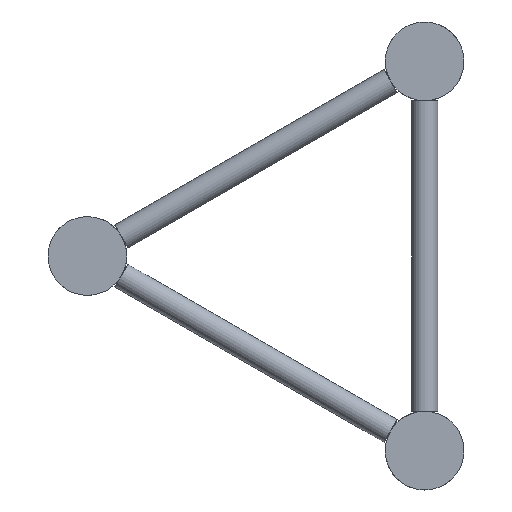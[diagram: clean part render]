
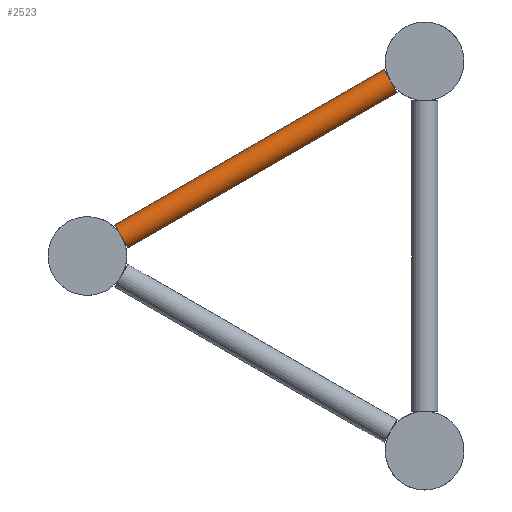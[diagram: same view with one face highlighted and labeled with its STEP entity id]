
A CAD part, left-side view. The second image highlights one B-rep face of the part: STEP entity #2523.
In plain terms, the highlighted cylindrical face has radius 8 mm (diameter 16 mm), a full revolution.
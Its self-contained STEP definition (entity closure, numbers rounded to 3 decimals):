
#72=CIRCLE('',#2895,8.);
#88=CIRCLE('',#2926,8.);
#89=CIRCLE('',#2928,8.);
#90=CIRCLE('',#2930,8.);
#237=FACE_BOUND('',#817,.T.);
#336=CYLINDRICAL_SURFACE('',#2929,8.);
#512=FACE_OUTER_BOUND('',#816,.T.);
#816=EDGE_LOOP('',(#1717,#1718));
#817=EDGE_LOOP('',(#1719,#1720));
#1181=VERTEX_POINT('',#4225);
#1182=VERTEX_POINT('',#4226);
#1207=VERTEX_POINT('',#4286);
#1208=VERTEX_POINT('',#4287);
#1376=EDGE_CURVE('',#1182,#1181,#72,.T.);
#1400=EDGE_CURVE('',#1208,#1207,#88,.T.);
#1401=EDGE_CURVE('',#1181,#1182,#89,.T.);
#1402=EDGE_CURVE('',#1207,#1208,#90,.T.);
#1717=ORIENTED_EDGE('',*,*,#1376,.T.);
#1718=ORIENTED_EDGE('',*,*,#1401,.T.);
#1719=ORIENTED_EDGE('',*,*,#1400,.T.);
#1720=ORIENTED_EDGE('',*,*,#1402,.T.);
#2523=ADVANCED_FACE('',(#512,#237),#336,.T.);
#2895=AXIS2_PLACEMENT_3D('',#4237,#3517,#3518);
#2926=AXIS2_PLACEMENT_3D('',#4300,#3587,#3588);
#2928=AXIS2_PLACEMENT_3D('',#4302,#3591,#3592);
#2929=AXIS2_PLACEMENT_3D('',#4303,#3593,#3594);
#2930=AXIS2_PLACEMENT_3D('',#4304,#3595,#3596);
#3517=DIRECTION('center_axis',(0.,-0.866,
0.5));
#3518=DIRECTION('ref_axis',(-1.,0.,0.));
#3587=DIRECTION('center_axis',(0.,0.866,-0.5));
#3588=DIRECTION('ref_axis',(-1.,0.,0.));
#3591=DIRECTION('center_axis',(0.,-0.866,
0.5));
#3592=DIRECTION('ref_axis',(-1.,0.,0.));
#3593=DIRECTION('center_axis',(0.,-0.866,
0.5));
#3594=DIRECTION('ref_axis',(-1.,0.,0.));
#3595=DIRECTION('center_axis',(0.,0.866,-0.5));
#3596=DIRECTION('ref_axis',(-1.,0.,0.));
#4225=CARTESIAN_POINT('',(52.,186.066,-107.425));
#4226=CARTESIAN_POINT('',(68.,186.066,-107.425));
#4237=CARTESIAN_POINT('Origin',(60.,186.066,-107.425));
#4286=CARTESIAN_POINT('',(52.,20.915,-12.075));
#4287=CARTESIAN_POINT('',(68.,20.915,-12.075));
#4300=CARTESIAN_POINT('Origin',(60.,20.915,-12.075));
#4302=CARTESIAN_POINT('Origin',(60.,186.066,-107.425));
#4303=CARTESIAN_POINT('Origin',(60.,103.49,-59.75));
#4304=CARTESIAN_POINT('Origin',(60.,20.915,-12.075));
